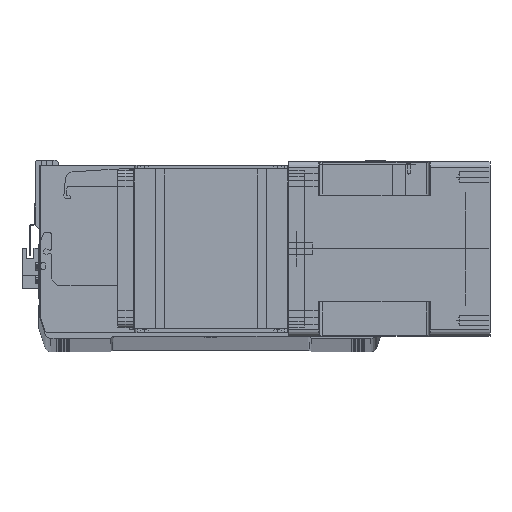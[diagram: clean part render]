
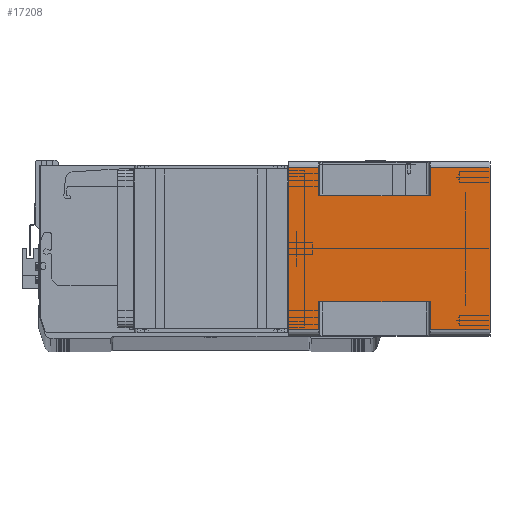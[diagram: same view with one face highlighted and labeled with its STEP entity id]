
A CAD part, top view. The second image highlights one B-rep face of the part: STEP entity #17208.
In plain terms, the highlighted planar face has unit normal (0, 0, 1) as drawn and (1, 0, 0) by its records, which use the part's own axes.
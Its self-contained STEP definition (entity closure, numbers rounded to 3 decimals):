
#118 = CARTESIAN_POINT ( 'NONE',  ( 71., -66., -24.5 ) ) ;
#134 = ORIENTED_EDGE ( 'NONE', *, *, #32645, .T. ) ;
#1018 = VERTEX_POINT ( 'NONE', #39683 ) ;
#2020 = VERTEX_POINT ( 'NONE', #38058 ) ;
#3417 = VECTOR ( 'NONE', #31182, 1000. ) ;
#3456 = EDGE_CURVE ( 'NONE', #8717, #34479, #22835, .T. ) ;
#4072 = VERTEX_POINT ( 'NONE', #26885 ) ;
#5152 = VERTEX_POINT ( 'NONE', #18446 ) ;
#5606 = LINE ( 'NONE', #10812, #40911 ) ;
#5745 = ORIENTED_EDGE ( 'NONE', *, *, #19515, .F. ) ;
#7469 = ORIENTED_EDGE ( 'NONE', *, *, #21334, .F. ) ;
#7490 = CARTESIAN_POINT ( 'NONE',  ( 71., -66., -24.5 ) ) ;
#7592 = DIRECTION ( 'NONE',  ( 0., 1., 0. ) ) ;
#7777 = PLANE ( 'NONE',  #25229 ) ;
#8717 = VERTEX_POINT ( 'NONE', #13981 ) ;
#8762 = CARTESIAN_POINT ( 'NONE',  ( 71., -66., -164. ) ) ;
#8849 = VERTEX_POINT ( 'NONE', #23850 ) ;
#9274 = DIRECTION ( 'NONE',  ( 0., 0., 1. ) ) ;
#10154 = LINE ( 'NONE', #17955, #3417 ) ;
#10646 = LINE ( 'NONE', #8762, #36116 ) ;
#10812 = CARTESIAN_POINT ( 'NONE',  ( 71., 43., -115.5 ) ) ;
#10849 = VERTEX_POINT ( 'NONE', #11564 ) ;
#11564 = CARTESIAN_POINT ( 'NONE',  ( 71., -66., 0. ) ) ;
#12436 = VERTEX_POINT ( 'NONE', #7490 ) ;
#12954 = DIRECTION ( 'NONE',  ( 0., -1., 0. ) ) ;
#13499 = DIRECTION ( 'NONE',  ( 0., 1., 0. ) ) ;
#13981 = CARTESIAN_POINT ( 'NONE',  ( 71., -43., -115.5 ) ) ;
#14190 = VECTOR ( 'NONE', #9274, 1000. ) ;
#15290 = DIRECTION ( 'NONE',  ( 0., 0., 1. ) ) ;
#15361 = EDGE_CURVE ( 'NONE', #42626, #22486, #18871, .T. ) ;
#16220 = CARTESIAN_POINT ( 'NONE',  ( 71., 66., 0. ) ) ;
#16624 = ORIENTED_EDGE ( 'NONE', *, *, #25337, .F. ) ;
#16901 = DIRECTION ( 'NONE',  ( 0., -1., 0. ) ) ;
#16923 = CARTESIAN_POINT ( 'NONE',  ( 71., 43., -164. ) ) ;
#17138 = LINE ( 'NONE', #21680, #40021 ) ;
#17208 = ADVANCED_FACE ( 'NONE', ( #42438 ), #7777, .T. ) ;
#17955 = CARTESIAN_POINT ( 'NONE',  ( 71., -66., -164. ) ) ;
#18446 = CARTESIAN_POINT ( 'NONE',  ( 71., -66., -115.5 ) ) ;
#18506 = ORIENTED_EDGE ( 'NONE', *, *, #22071, .T. ) ;
#18769 = EDGE_CURVE ( 'NONE', #8717, #5152, #21954, .T. ) ;
#18871 = LINE ( 'NONE', #25543, #14190 ) ;
#18901 = DIRECTION ( 'NONE',  ( 0., 1., 0. ) ) ;
#18986 = LINE ( 'NONE', #118, #25737 ) ;
#19515 = EDGE_CURVE ( 'NONE', #32349, #2020, #24438, .T. ) ;
#19521 = DIRECTION ( 'NONE',  ( 0., 0., 1. ) ) ;
#19524 = VECTOR ( 'NONE', #7592, 1000. ) ;
#19878 = LINE ( 'NONE', #31283, #36503 ) ;
#20533 = ORIENTED_EDGE ( 'NONE', *, *, #27589, .T. ) ;
#20662 = CARTESIAN_POINT ( 'NONE',  ( 71., -66., 0. ) ) ;
#20741 = ORIENTED_EDGE ( 'NONE', *, *, #35139, .F. ) ;
#21217 = EDGE_CURVE ( 'NONE', #32349, #42626, #18986, .T. ) ;
#21334 = EDGE_CURVE ( 'NONE', #12436, #10849, #10154, .T. ) ;
#21680 = CARTESIAN_POINT ( 'NONE',  ( 71., 66., -164. ) ) ;
#21954 = LINE ( 'NONE', #32856, #36504 ) ;
#22071 = EDGE_CURVE ( 'NONE', #12436, #34479, #19878, .T. ) ;
#22486 = VERTEX_POINT ( 'NONE', #16220 ) ;
#22835 = LINE ( 'NONE', #33600, #40975 ) ;
#23850 = CARTESIAN_POINT ( 'NONE',  ( 71., 66., -164. ) ) ;
#24148 = ORIENTED_EDGE ( 'NONE', *, *, #15361, .T. ) ;
#24438 = LINE ( 'NONE', #16923, #28060 ) ;
#24603 = DIRECTION ( 'NONE',  ( 0., 1., 0. ) ) ;
#25229 = AXIS2_PLACEMENT_3D ( 'NONE', #31006, #37823, #24603 ) ;
#25337 = EDGE_CURVE ( 'NONE', #10849, #22486, #27789, .T. ) ;
#25543 = CARTESIAN_POINT ( 'NONE',  ( 71., 66., -164. ) ) ;
#25737 = VECTOR ( 'NONE', #13499, 1000. ) ;
#26274 = LINE ( 'NONE', #32548, #35095 ) ;
#26885 = CARTESIAN_POINT ( 'NONE',  ( 71., -66., -164. ) ) ;
#27589 = EDGE_CURVE ( 'NONE', #4072, #8849, #26274, .T. ) ;
#27637 = ORIENTED_EDGE ( 'NONE', *, *, #21217, .T. ) ;
#27789 = LINE ( 'NONE', #20662, #19524 ) ;
#28060 = VECTOR ( 'NONE', #42417, 1000. ) ;
#31006 = CARTESIAN_POINT ( 'NONE',  ( 71., -66., -164. ) ) ;
#31182 = DIRECTION ( 'NONE',  ( 0., 0., 1. ) ) ;
#31283 = CARTESIAN_POINT ( 'NONE',  ( 71., -43., -24.5 ) ) ;
#32349 = VERTEX_POINT ( 'NONE', #38703 ) ;
#32548 = CARTESIAN_POINT ( 'NONE',  ( 71., -66., -164. ) ) ;
#32645 = EDGE_CURVE ( 'NONE', #8849, #1018, #17138, .T. ) ;
#32856 = CARTESIAN_POINT ( 'NONE',  ( 71., -66., -115.5 ) ) ;
#33600 = CARTESIAN_POINT ( 'NONE',  ( 71., -43., -164. ) ) ;
#34109 = EDGE_CURVE ( 'NONE', #1018, #2020, #5606, .T. ) ;
#34479 = VERTEX_POINT ( 'NONE', #35919 ) ;
#35095 = VECTOR ( 'NONE', #18901, 1000. ) ;
#35139 = EDGE_CURVE ( 'NONE', #4072, #5152, #10646, .T. ) ;
#35919 = CARTESIAN_POINT ( 'NONE',  ( 71., -43., -24.5 ) ) ;
#36116 = VECTOR ( 'NONE', #19521, 1000. ) ;
#36503 = VECTOR ( 'NONE', #38565, 1000. ) ;
#36504 = VECTOR ( 'NONE', #12954, 1000. ) ;
#37015 = EDGE_LOOP ( 'NONE', ( #38002, #38825, #20741, #20533, #134, #37875, #5745, #27637, #24148, #16624, #7469, #18506 ) ) ;
#37823 = DIRECTION ( 'NONE',  ( 1., 0., 0. ) ) ;
#37875 = ORIENTED_EDGE ( 'NONE', *, *, #34109, .T. ) ;
#38002 = ORIENTED_EDGE ( 'NONE', *, *, #3456, .F. ) ;
#38058 = CARTESIAN_POINT ( 'NONE',  ( 71., 43., -115.5 ) ) ;
#38565 = DIRECTION ( 'NONE',  ( 0., 1., 0. ) ) ;
#38703 = CARTESIAN_POINT ( 'NONE',  ( 71., 43., -24.5 ) ) ;
#38825 = ORIENTED_EDGE ( 'NONE', *, *, #18769, .T. ) ;
#39683 = CARTESIAN_POINT ( 'NONE',  ( 71., 66., -115.5 ) ) ;
#40021 = VECTOR ( 'NONE', #15290, 1000. ) ;
#40419 = DIRECTION ( 'NONE',  ( 0., 0., 1. ) ) ;
#40911 = VECTOR ( 'NONE', #16901, 1000. ) ;
#40975 = VECTOR ( 'NONE', #40419, 1000. ) ;
#42417 = DIRECTION ( 'NONE',  ( 0., 0., -1. ) ) ;
#42438 = FACE_OUTER_BOUND ( 'NONE', #37015, .T. ) ;
#42626 = VERTEX_POINT ( 'NONE', #42659 ) ;
#42659 = CARTESIAN_POINT ( 'NONE',  ( 71., 66., -24.5 ) ) ;
